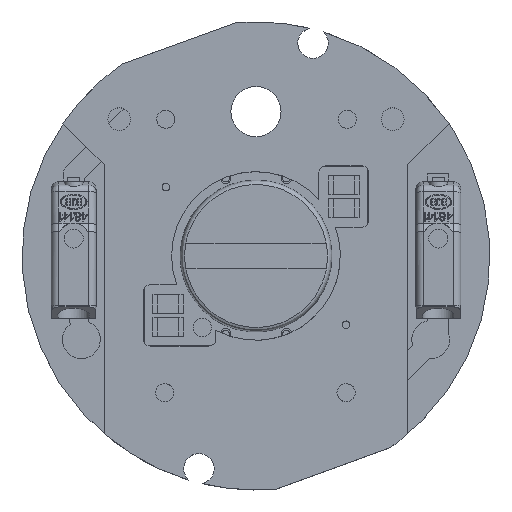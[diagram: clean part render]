
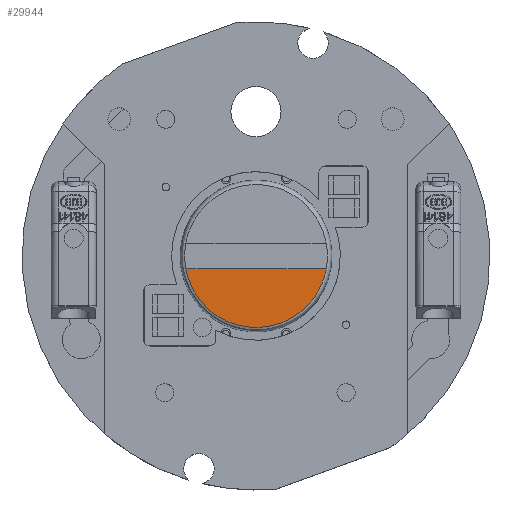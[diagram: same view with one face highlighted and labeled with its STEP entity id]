
A CAD part, top view. The second image highlights one B-rep face of the part: STEP entity #29944.
In plain terms, the highlighted planar face has unit normal (0, 0, 1).
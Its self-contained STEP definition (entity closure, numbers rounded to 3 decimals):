
#3702 = CARTESIAN_POINT ( 'NONE',  ( 4.622, -0.85, 1.464 ) ) ;
#5265 = EDGE_CURVE ( 'NONE', #31630, #11937, #16286, .T. ) ;
#6228 = CARTESIAN_POINT ( 'NONE',  ( 4.524, -1.387, 1.464 ) ) ;
#6861 = DIRECTION ( 'NONE',  ( -1., 0., 0. ) ) ;
#6946 = CARTESIAN_POINT ( 'NONE',  ( 0., -0.85, 1.464 ) ) ;
#8804 = CARTESIAN_POINT ( 'NONE',  ( 2.589, -3.96, 1.464 ) ) ;
#9213 = CARTESIAN_POINT ( 'NONE',  ( 0.545, -4.7, 1.464 ) ) ;
#9618 = CARTESIAN_POINT ( 'NONE',  ( -2.112, -4.234, 1.464 ) ) ;
#11122 = CARTESIAN_POINT ( 'NONE',  ( -4.524, -1.386, 1.464 ) ) ;
#11937 = VERTEX_POINT ( 'NONE', #3702 ) ;
#12189 = CARTESIAN_POINT ( 'NONE',  ( -3.783, -2.842, 1.464 ) ) ;
#12810 = CARTESIAN_POINT ( 'NONE',  ( -0.545, -4.7, 1.464 ) ) ;
#15964 = ORIENTED_EDGE ( 'NONE', *, *, #20103, .T. ) ;
#16286 = LINE ( 'NONE', #6946, #18199 ) ;
#16403 = DIRECTION ( 'NONE',  ( 0., 0., 1. ) ) ;
#16434 = AXIS2_PLACEMENT_3D ( 'NONE', #17049, #16403, #6861 ) ;
#17049 = CARTESIAN_POINT ( 'NONE',  ( 0., 0., 1.464 ) ) ;
#18005 = ORIENTED_EDGE ( 'NONE', *, *, #5265, .F. ) ;
#18199 = VECTOR ( 'NONE', #29254, 1000. ) ;
#20103 = EDGE_CURVE ( 'NONE', #31630, #11937, #29171, .T. ) ;
#20687 = EDGE_LOOP ( 'NONE', ( #18005, #15964 ) ) ;
#22185 = CARTESIAN_POINT ( 'NONE',  ( 1.087, -4.605, 1.464 ) ) ;
#22586 = CARTESIAN_POINT ( 'NONE',  ( 3.426, -3.263, 1.464 ) ) ;
#25317 = CARTESIAN_POINT ( 'NONE',  ( -3.426, -3.263, 1.464 ) ) ;
#26591 = FACE_OUTER_BOUND ( 'NONE', #20687, .T. ) ;
#27696 = CARTESIAN_POINT ( 'NONE',  ( -4.332, -1.902, 1.464 ) ) ;
#28100 = CARTESIAN_POINT ( 'NONE',  ( 2.111, -4.234, 1.464 ) ) ;
#28317 = CARTESIAN_POINT ( 'NONE',  ( 4.332, -1.902, 1.464 ) ) ;
#28536 = CARTESIAN_POINT ( 'NONE',  ( 3.782, -2.843, 1.464 ) ) ;
#29171 = B_SPLINE_CURVE_WITH_KNOTS ( 'NONE', 3,
 ( #40278, #11122, #27696, #12189, #25317, #41363, #9618, #38335, #12810, #9213, #22185, #28100, #8804, #22586, #28536, #28317, #6228, #32169 ),
 .UNSPECIFIED., .F., .F.,
 ( 4, 2, 2, 2, 2, 2, 2, 2, 4 ),
 ( 0., 0.125, 0.25, 0.375, 0.5, 0.625, 0.75, 0.875, 1. ),
 .UNSPECIFIED. ) ;
#29254 = DIRECTION ( 'NONE',  ( 1., 0., 0. ) ) ;
#29944 = ADVANCED_FACE ( 'NONE', ( #26591 ), #41989, .T. ) ;
#31630 = VERTEX_POINT ( 'NONE', #32729 ) ;
#32169 = CARTESIAN_POINT ( 'NONE',  ( 4.622, -0.85, 1.464 ) ) ;
#32729 = CARTESIAN_POINT ( 'NONE',  ( -4.622, -0.85, 1.464 ) ) ;
#38335 = CARTESIAN_POINT ( 'NONE',  ( -1.087, -4.605, 1.464 ) ) ;
#40278 = CARTESIAN_POINT ( 'NONE',  ( -4.622, -0.85, 1.464 ) ) ;
#41363 = CARTESIAN_POINT ( 'NONE',  ( -2.589, -3.96, 1.464 ) ) ;
#41989 = PLANE ( 'NONE',  #16434 ) ;
